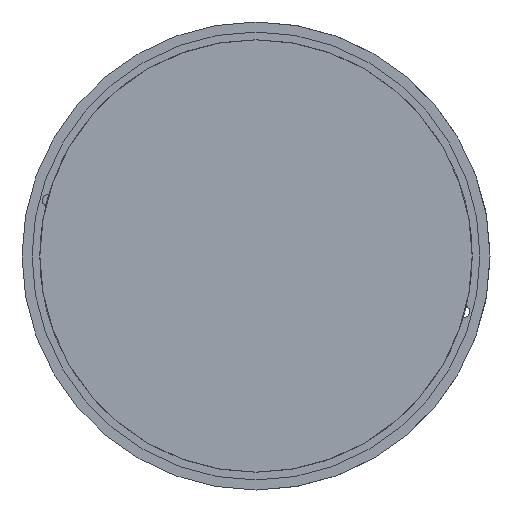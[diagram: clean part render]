
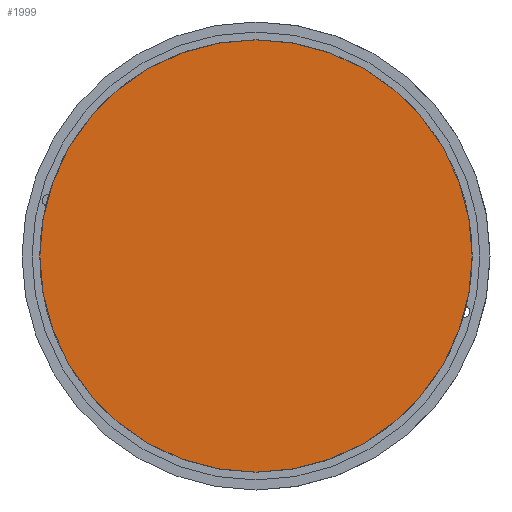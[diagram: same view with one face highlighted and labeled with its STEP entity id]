
A CAD part, front view. The second image highlights one B-rep face of the part: STEP entity #1999.
In plain terms, the highlighted planar face has unit normal (0, -1, 0).
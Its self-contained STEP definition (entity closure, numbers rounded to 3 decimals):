
#96 = FACE_OUTER_BOUND ( 'NONE', #3597, .T. ) ;
#148 = AXIS2_PLACEMENT_3D ( 'NONE', #7320, #3035, #1357 ) ;
#164 = CARTESIAN_POINT ( 'NONE',  ( 0., 0., 0. ) ) ;
#657 = DIRECTION ( 'NONE',  ( 0., 0., -1. ) ) ;
#1297 = DIRECTION ( 'NONE',  ( 0., 0., -1. ) ) ;
#1349 = CARTESIAN_POINT ( 'NONE',  ( 0., 0., 97. ) ) ;
#1357 = DIRECTION ( 'NONE',  ( 0., 0., -1. ) ) ;
#1453 = VERTEX_POINT ( 'NONE', #1349 ) ;
#1965 = DIRECTION ( 'NONE',  ( 0., -1., 0. ) ) ;
#1999 = ADVANCED_FACE ( 'NONE', ( #96 ), #3703, .T. ) ;
#2095 = ORIENTED_EDGE ( 'NONE', *, *, #4792, .T. ) ;
#3035 = DIRECTION ( 'NONE',  ( 0., -1., 0. ) ) ;
#3275 = ORIENTED_EDGE ( 'NONE', *, *, #3567, .T. ) ;
#3567 = EDGE_CURVE ( 'NONE', #5306, #1453, #7572, .T. ) ;
#3597 = EDGE_LOOP ( 'NONE', ( #3275, #2095 ) ) ;
#3703 = PLANE ( 'NONE',  #148 ) ;
#4493 = CIRCLE ( 'NONE', #7465, 97. ) ;
#4632 = CARTESIAN_POINT ( 'NONE',  ( 0., 0., -97. ) ) ;
#4792 = EDGE_CURVE ( 'NONE', #1453, #5306, #4493, .T. ) ;
#4874 = DIRECTION ( 'NONE',  ( 0., -1., 0. ) ) ;
#5306 = VERTEX_POINT ( 'NONE', #4632 ) ;
#6775 = CARTESIAN_POINT ( 'NONE',  ( 0., 0., 0. ) ) ;
#7188 = AXIS2_PLACEMENT_3D ( 'NONE', #6775, #1965, #657 ) ;
#7320 = CARTESIAN_POINT ( 'NONE',  ( 0., 0., 0. ) ) ;
#7465 = AXIS2_PLACEMENT_3D ( 'NONE', #164, #4874, #1297 ) ;
#7572 = CIRCLE ( 'NONE', #7188, 97. ) ;
